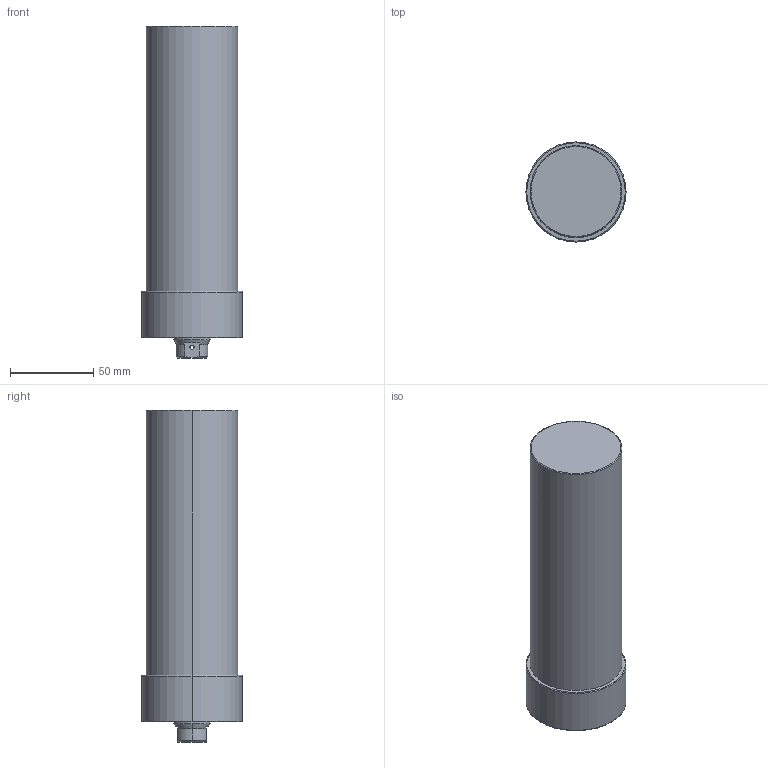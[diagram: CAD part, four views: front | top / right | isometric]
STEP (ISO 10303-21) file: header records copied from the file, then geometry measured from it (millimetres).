
FILE_DESCRIPTION (( 'STEP AP203' ), '1' );
FILE_NAME ('CLLU-055GB-130.STEP', '2020-01-06T07:24:13', ( '' ), ( '' ), 'SwSTEP 2.0', 'SolidWorks 2015', '' );
FILE_SCHEMA (( 'CONFIG_CONTROL_DESIGN' ));
Length unit declared in the file: millimetre
Products named in the file (1): CLLU-055GB-130
Bounding box: 60 x 60 x 199 mm (x, y, z)
Volume: 457215.7 mm3; surface area: 40844.4 mm2
Topology: 1 solids, 1 shells, 68 faces, 155 edges, 88 vertices
Faces by surface type: cylinder 27, cone 25, plane 10, torus 6
Entity records: 2021 total; most frequent: CARTESIAN_POINT 422, DIRECTION 350, ORIENTED_EDGE 290, AXIS2_PLACEMENT_3D 148, EDGE_CURVE 145, VERTEX_POINT 88, EDGE_LOOP 81, CIRCLE 79
